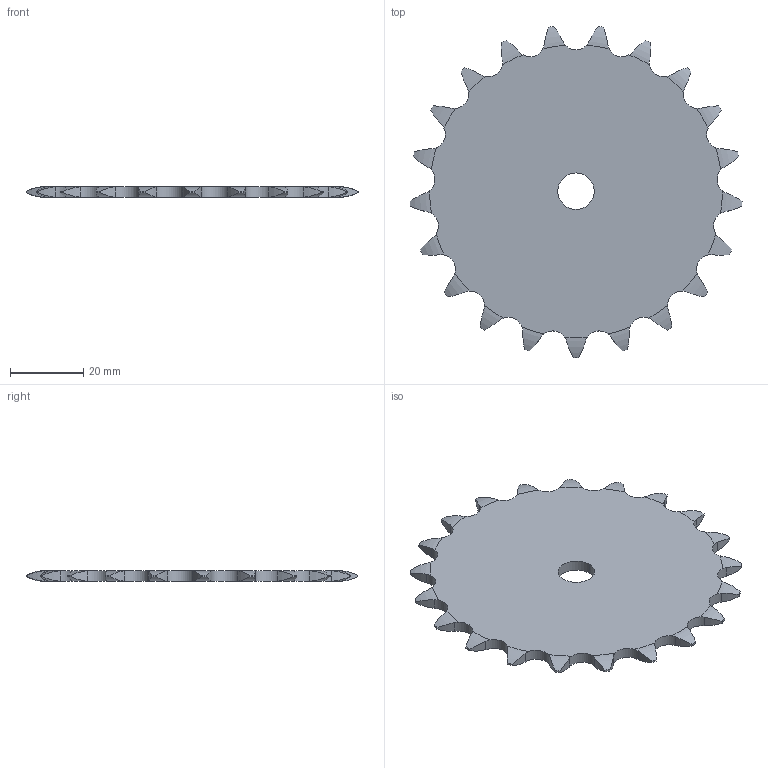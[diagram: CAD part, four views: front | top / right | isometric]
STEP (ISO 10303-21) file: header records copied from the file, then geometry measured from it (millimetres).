
FILE_DESCRIPTION((''),'2;1');
FILE_NAME('500-231-0021_PRT','2021-02-12T',('Brieden'),('Brieden'),'PRO/ENGINEER BY PARAMETRIC TECHNOLOGY CORPORATION, 2010160','PRO/ENGINEER BY PARAMETRIC TECHNOLOGY CORPORATION, 2010160','');
FILE_SCHEMA(('AUTOMOTIVE_DESIGN { 1 0 10303 214 1 1 1 1 }'));
Length unit declared in the file: millimetre
Products named in the file (1): 500-231-0021_PRT
Bounding box: 90.84 x 90.59 x 3 mm (x, y, z)
Volume: 15629.3 mm3; surface area: 11684.7 mm2
Topology: 1 solids, 1 shells, 130 faces, 384 edges, 256 vertices
Faces by surface type: cylinder 86, torus 42, plane 2
Entity records: 6276 total; most frequent: CARTESIAN_POINT 1781, ORIENTED_EDGE 768, DIRECTION 606, PRESENTATION_STYLE_ASSIGNMENT 385, STYLED_ITEM 385, CURVE_STYLE 384, EDGE_CURVE 384, AXIS2_PLACEMENT_3D 260
